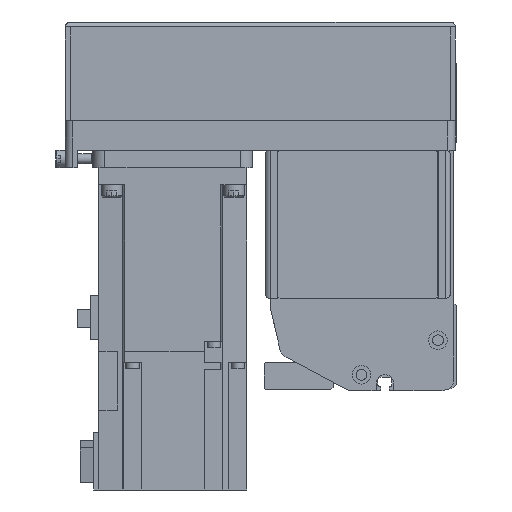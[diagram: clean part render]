
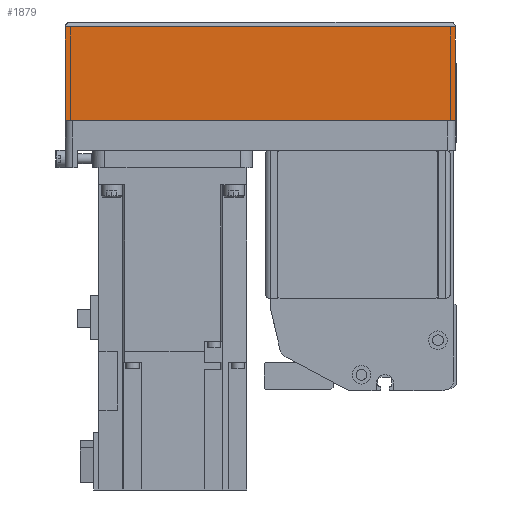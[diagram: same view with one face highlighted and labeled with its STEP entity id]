
A CAD part, left-side view. The second image highlights one B-rep face of the part: STEP entity #1879.
In plain terms, the highlighted planar face has unit normal (-1, 0, 0) as drawn and (0, 1, 0) by its records, which use the part's own axes.
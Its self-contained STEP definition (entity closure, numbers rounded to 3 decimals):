
#1879 = ADVANCED_FACE( '', ( #4336 ), #4337, .T. );
#4336 = FACE_OUTER_BOUND( '', #7457, .T. );
#4337 = PLANE( '', #7458 );
#7457 = EDGE_LOOP( '', ( #12731, #12732, #12733, #12734 ) );
#7458 = AXIS2_PLACEMENT_3D( '', #12735, #12736, #12737 );
#12731 = ORIENTED_EDGE( '', *, *, #18784, .F. );
#12732 = ORIENTED_EDGE( '', *, *, #18800, .F. );
#12733 = ORIENTED_EDGE( '', *, *, #18328, .T. );
#12734 = ORIENTED_EDGE( '', *, *, #17874, .T. );
#12735 = CARTESIAN_POINT( '', ( -158., 39., -50. ) );
#12736 = DIRECTION( '', ( 0., 1., 0. ) );
#12737 = DIRECTION( '', ( 0., 0., 1. ) );
#17874 = EDGE_CURVE( '', #21249, #21247, #21250, .T. );
#18328 = EDGE_CURVE( '', #22043, #21249, #22044, .T. );
#18784 = EDGE_CURVE( '', #22810, #21247, #22811, .T. );
#18800 = EDGE_CURVE( '', #22043, #22810, #22836, .T. );
#21247 = VERTEX_POINT( '', #26191 );
#21249 = VERTEX_POINT( '', #26194 );
#21250 = LINE( '', #26195, #26196 );
#22043 = VERTEX_POINT( '', #27342 );
#22044 = LINE( '', #27343, #27344 );
#22810 = VERTEX_POINT( '', #28418 );
#22811 = LINE( '', #28419, #28420 );
#22836 = LINE( '', #28453, #28454 );
#26191 = CARTESIAN_POINT( '', ( 0., 39., -12.1 ) );
#26194 = CARTESIAN_POINT( '', ( -158., 39., -12.1 ) );
#26195 = CARTESIAN_POINT( '', ( -158., 39., -12.1 ) );
#26196 = VECTOR( '', #33228, 1000. );
#27342 = CARTESIAN_POINT( '', ( -158., 39., -50. ) );
#27343 = CARTESIAN_POINT( '', ( -158., 39., -50. ) );
#27344 = VECTOR( '', #33822, 1000. );
#28418 = CARTESIAN_POINT( '', ( 0., 39., -50. ) );
#28419 = CARTESIAN_POINT( '', ( 0., 39., -50. ) );
#28420 = VECTOR( '', #34400, 1000. );
#28453 = CARTESIAN_POINT( '', ( -158., 39., -50. ) );
#28454 = VECTOR( '', #34418, 1000. );
#33228 = DIRECTION( '', ( 1., 0., 0. ) );
#33822 = DIRECTION( '', ( 0., 0., 1. ) );
#34400 = DIRECTION( '', ( 0., 0., 1. ) );
#34418 = DIRECTION( '', ( 1., 0., 0. ) );
